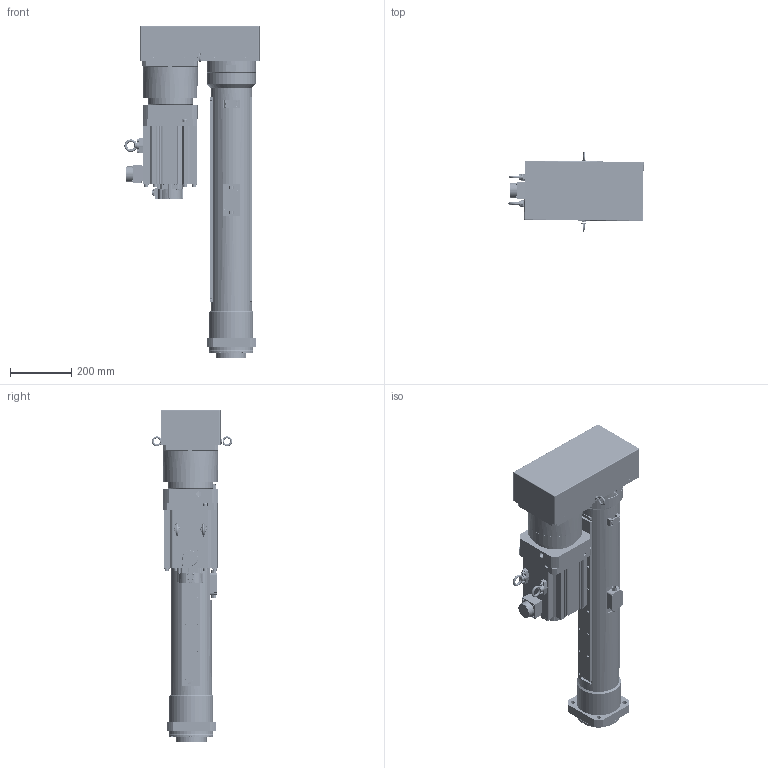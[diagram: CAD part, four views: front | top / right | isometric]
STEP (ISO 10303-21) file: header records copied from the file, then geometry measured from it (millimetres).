
FILE_DESCRIPTION( ('This file contains a STEP AP42 implementation' ,'as created by ZW3D STEP Interface translator.') ,'2;1' );
FILE_NAME( 'OACIS-DC-P080-P100-600-150-A6V200_v20.51.stp' ,'26 430.1749 3', (''), ('ZWCAD Software Co.'), 'Version 1.0', 'ZW3D to STEP translator', '' );
FILE_SCHEMA(('AUTOMOTIVE_DESIGN { 1 0 10303 214 1 1 1 1 }'));
Length unit declared in the file: millimetre
Products named in the file (1): 0
Bounding box: 443 x 262.74 x 1088 mm (x, y, z)
Volume: 25948041 mm3; surface area: 3090225.3 mm2
Topology: 50 solids, 61 shells, 2545 faces, 6411 edges, 4155 vertices
Faces by surface type: cylinder 1083, plane 982, cone 343, torus 107, bspline 18, sphere 12
Full cylindrical faces by diameter (mm): 1.6 x8, 3.3 x100, 4.2 x18, 4.3 x38, 4.5 x8, 5 x4, 5.3 x4, 5.5 x6, 6.647 x2, 6.8 x69, 7 x8, 8 x44, 8.4 x8, 8.5 x1, 9 x19, 9.5 x4, 10 x6, 10.106 x4, 10.2 x8, 11 x4, 13 x12, 13.083 x1, 13.5 x4, 14 x23, 14.8 x1, 15 x8, 16 x10, 16.5 x2, 17.294 x1, 18 x5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
Entity records: 89551 total; most frequent: CARTESIAN_POINT 22862, DIRECTION 13682, ORIENTED_EDGE 12580, EDGE_CURVE 6301, AXIS2_PLACEMENT_3D 5240, VERTEX_POINT 4152, EDGE_LOOP 3227, VECTOR 3202
